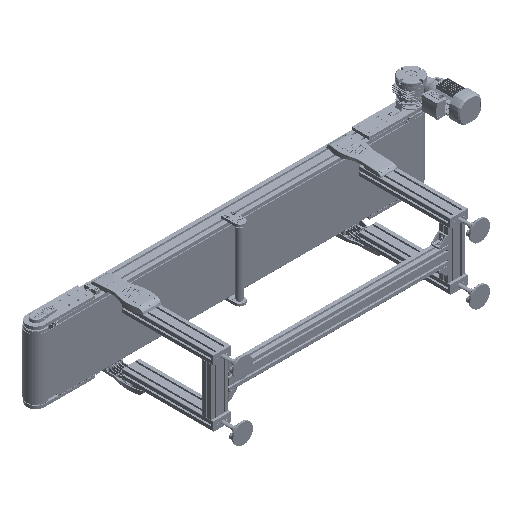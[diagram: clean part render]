
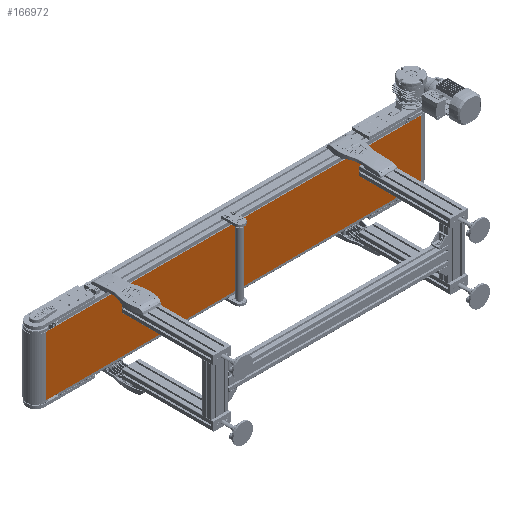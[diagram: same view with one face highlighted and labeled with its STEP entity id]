
A CAD part, isometric view. The second image highlights one B-rep face of the part: STEP entity #166972.
In plain terms, the highlighted planar face has unit normal (0, -1, 0).
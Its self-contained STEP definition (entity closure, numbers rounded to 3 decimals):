
#5729 = VERTEX_POINT ( 'NONE', #248408 ) ;
#17475 = VECTOR ( 'NONE', #246578, 1000. ) ;
#19027 = DIRECTION ( 'NONE',  ( 0., 0., -1. ) ) ;
#23001 = PLANE ( 'NONE',  #241457 ) ;
#42559 = CARTESIAN_POINT ( 'NONE',  ( -950., -49.5, 150. ) ) ;
#48668 = ORIENTED_EDGE ( 'NONE', *, *, #120802, .T. ) ;
#49027 = EDGE_CURVE ( 'NONE', #139266, #174726, #179094, .T. ) ;
#60527 = CARTESIAN_POINT ( 'NONE',  ( -950., -49.5, -150. ) ) ;
#90574 = DIRECTION ( 'NONE',  ( 0., 1., 0. ) ) ;
#103999 = ORIENTED_EDGE ( 'NONE', *, *, #249850, .F. ) ;
#120802 = EDGE_CURVE ( 'NONE', #5729, #191760, #234118, .T. ) ;
#124352 = CARTESIAN_POINT ( 'NONE',  ( 950., -49.5, 150. ) ) ;
#138386 = DIRECTION ( 'NONE',  ( 1., 0., 0. ) ) ;
#139266 = VERTEX_POINT ( 'NONE', #124352 ) ;
#152833 = VECTOR ( 'NONE', #138386, 1000. ) ;
#161339 = DIRECTION ( 'NONE',  ( 0., 0., 1. ) ) ;
#161966 = LINE ( 'NONE', #42559, #152833 ) ;
#166972 = ADVANCED_FACE ( 'NONE', ( #305775 ), #23001, .F. ) ;
#174726 = VERTEX_POINT ( 'NONE', #248596 ) ;
#176666 = VECTOR ( 'NONE', #179962, 1000. ) ;
#179094 = LINE ( 'NONE', #224586, #17475 ) ;
#179962 = DIRECTION ( 'NONE',  ( 1., 0., 0. ) ) ;
#191760 = VERTEX_POINT ( 'NONE', #245792 ) ;
#197373 = ORIENTED_EDGE ( 'NONE', *, *, #297953, .T. ) ;
#224586 = CARTESIAN_POINT ( 'NONE',  ( 950., -49.5, 150. ) ) ;
#231255 = VECTOR ( 'NONE', #19027, 1000. ) ;
#234118 = LINE ( 'NONE', #260746, #231255 ) ;
#236527 = CARTESIAN_POINT ( 'NONE',  ( -950., -49.5, 150. ) ) ;
#241457 = AXIS2_PLACEMENT_3D ( 'NONE', #236527, #90574, #161339 ) ;
#245792 = CARTESIAN_POINT ( 'NONE',  ( -950., -49.5, -150. ) ) ;
#246578 = DIRECTION ( 'NONE',  ( 0., 0., -1. ) ) ;
#248408 = CARTESIAN_POINT ( 'NONE',  ( -950., -49.5, 150. ) ) ;
#248596 = CARTESIAN_POINT ( 'NONE',  ( 950., -49.5, -150. ) ) ;
#249850 = EDGE_CURVE ( 'NONE', #5729, #139266, #161966, .T. ) ;
#260746 = CARTESIAN_POINT ( 'NONE',  ( -950., -49.5, 150. ) ) ;
#277537 = EDGE_LOOP ( 'NONE', ( #197373, #295048, #103999, #48668 ) ) ;
#295048 = ORIENTED_EDGE ( 'NONE', *, *, #49027, .F. ) ;
#297953 = EDGE_CURVE ( 'NONE', #191760, #174726, #299308, .T. ) ;
#299308 = LINE ( 'NONE', #60527, #176666 ) ;
#305775 = FACE_OUTER_BOUND ( 'NONE', #277537, .T. ) ;
